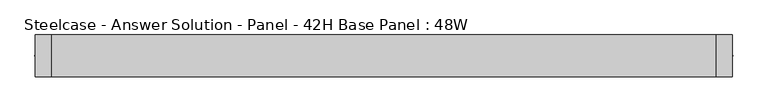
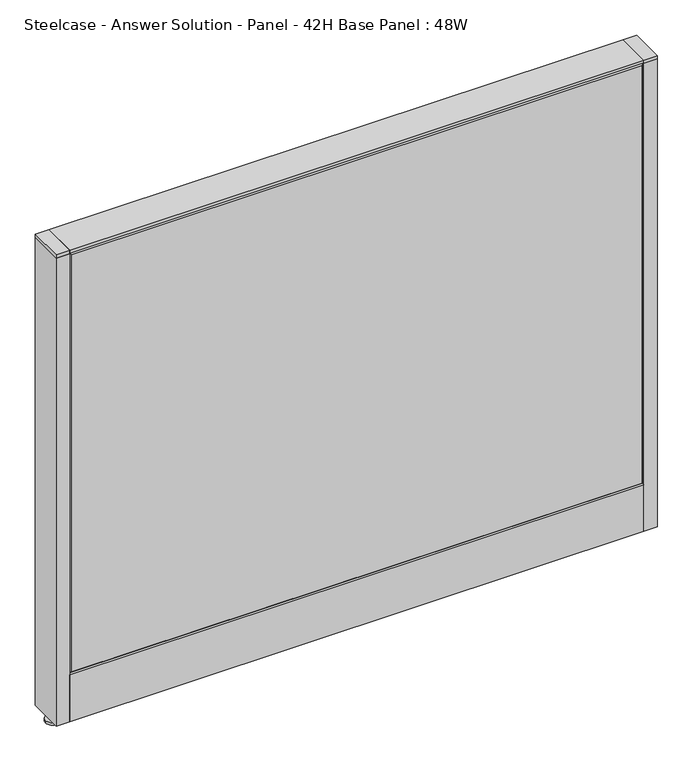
"""IFC4 building model written with IfcOpenShell, lengths in millimetres: furniture geometry, Steelcase - Answer Solution - Panel - 42H Base Panel : 48W."""

from ifc_helpers import new_model, si_unit, point, frame, frame_2d, origin, place, context, project, spatial, polyline, circle_curve, trimmed, segment, composite_curve, outline, extrude, faceted_brep, source, transform, mapped, element, save


def steelcase_answer_solution_panel_42h_base_panel_48w_7ca1e1f1(model_context):
    return source(origin(), model_context, "Body", "SolidModel", [
        extrude(outline(composite_curve([segment(trimmed(circle_curve(frame_2d((623.824, 0.0039657)), 5.08), [point((628.904, 0.0039657))], [point((618.744, 0.0039657))], False, "CARTESIAN"), True, "CONTINUOUS"), segment(trimmed(circle_curve(frame_2d((623.824, 0.0039657)), 5.08), [point((618.744, 0.0039657))], [point((628.904, 0.0039657))], False, "CARTESIAN"), True, "CONTINUOUS")], self_intersect=False)), frame((0.0, 0.0, 5.0799671), z_axis=(0.0, 0.0, 1.0), x_axis=(1.0, 0.0, 0.0)), (0.0, 0.0, 1.0), 10.414),
        extrude(outline(composite_curve([segment(trimmed(circle_curve(frame_2d((623.824, 0.0039657)), 15.24), [point((639.064, 0.0039657))], [point((608.584, 0.0039657))], False, "CARTESIAN"), True, "CONTINUOUS"), segment(trimmed(circle_curve(frame_2d((623.824, 0.0039657)), 15.24), [point((608.584, 0.0039657))], [point((639.064, 0.0039657))], False, "CARTESIAN"), True, "CONTINUOUS")], self_intersect=False)), frame((0.0, 0.0, -3.29e-05), z_axis=(0.0, 0.0, 1.0), x_axis=(1.0, 0.0, 0.0)), (0.0, 0.0, 1.0), 5.08),
        extrude(outline(polyline([(638.175, 38.1039851), (638.175, -38.0960149), (609.6, -38.0960149), (609.6, 38.1039851), (638.175, 38.1039851)])), frame((0.0, 0.0, 1065.8348), z_axis=(0.0, 0.0, 1.0), x_axis=(1.0, 0.0, 0.0)), (0.0, 0.0, 1.0), 7.3151671),
        extrude(outline(polyline([(638.175, 38.1039851), (638.175, -38.0960149), (609.6, -38.0960149), (609.6, 38.1039851), (638.175, 38.1039851)])), frame((0.0, 0.0, 15.4939671), z_axis=(0.0, 0.0, 1.0), x_axis=(1.0, 0.0, 0.0)), (0.0, 0.0, 1.0), 1050.3408329),
        extrude(outline(composite_curve([segment(trimmed(circle_curve(frame_2d((-623.824, 0.0039657)), 5.08), [point((-628.904, 0.0039657))], [point((-618.744, 0.0039657))], False, "CARTESIAN"), True, "CONTINUOUS"), segment(trimmed(circle_curve(frame_2d((-623.824, 0.0039657)), 5.08), [point((-618.744, 0.0039657))], [point((-628.904, 0.0039657))], False, "CARTESIAN"), True, "CONTINUOUS")], self_intersect=False)), frame((0.0, 0.0, 5.0799671), z_axis=(0.0, 0.0, 1.0), x_axis=(1.0, 0.0, 0.0)), (0.0, 0.0, 1.0), 10.414),
        extrude(outline(composite_curve([segment(trimmed(circle_curve(frame_2d((-623.824, 0.0039657)), 15.24), [point((-639.064, 0.0039657))], [point((-608.584, 0.0039657))], False, "CARTESIAN"), True, "CONTINUOUS"), segment(trimmed(circle_curve(frame_2d((-623.824, 0.0039657)), 15.24), [point((-608.584, 0.0039657))], [point((-639.064, 0.0039657))], False, "CARTESIAN"), True, "CONTINUOUS")], self_intersect=False)), frame((0.0, 0.0, -3.29e-05), z_axis=(0.0, 0.0, 1.0), x_axis=(1.0, 0.0, 0.0)), (0.0, 0.0, 1.0), 5.08),
        extrude(outline(polyline([(-638.175, 38.1039851), (-609.6, 38.1039851), (-609.6, -38.0960149), (-638.175, -38.0960149), (-638.175, 38.1039851)])), frame((0.0, 0.0, 1065.8348), z_axis=(0.0, 0.0, 1.0), x_axis=(1.0, 0.0, 0.0)), (0.0, 0.0, 1.0), 7.3151671),
        extrude(outline(polyline([(-638.175, 38.1039851), (-609.6, 38.1039851), (-609.6, -38.0960149), (-638.175, -38.0960149), (-638.175, 38.1039851)])), frame((0.0, 0.0, 15.4939671), z_axis=(0.0, 0.0, 1.0), x_axis=(1.0, 0.0, 0.0)), (0.0, 0.0, 1.0), 1050.3408329),
        faceted_brep([(-604.774, 38.1635011, 1061.974), (604.774, 38.1635011, 1061.974), (604.774, 38.1635011, 125.476), (-604.774, 38.1635011, 125.476), (-609.6, 33.3375011, 1066.8), (-609.6, 33.3375011, 120.65), (609.6, 33.3375011, 120.65), (609.6, 33.3375011, 1066.8)], [[[0, 1, 2, 3]], [[4, 5, 6, 7]], [[4, 7, 1, 0]], [[7, 6, 2, 1]], [[6, 5, 3, 2]], [[5, 4, 0, 3]]]),
        faceted_brep([(604.774, -38.1635011, 1061.974), (-604.774, -38.1635011, 1061.974), (-604.774, -38.1635011, 125.476), (604.774, -38.1635011, 125.476), (609.6, -33.3375011, 1066.8), (609.6, -33.3375011, 120.65), (-609.6, -33.3375011, 120.65), (-609.6, -33.3375011, 1066.8)], [[[0, 1, 2, 3]], [[4, 5, 6, 7]], [[4, 7, 1, 0]], [[7, 6, 2, 1]], [[6, 5, 3, 2]], [[5, 4, 0, 3]]]),
        extrude(outline(polyline([(609.6, 38.1000194), (609.6, -38.1000194), (-609.6, -38.1000194), (-609.6, 38.1000194), (609.6, 38.1000194)])), frame((0.0, 0.0, 1066.8), z_axis=(0.0, 0.0, 1.0), x_axis=(1.0, 0.0, 0.0)), (0.0, 0.0, 1.0), 6.35),
        extrude(outline(polyline([(25.4000011, 119.8575157), (25.4000011, 120.65), (38.1000194, 120.65), (38.1000194, 15.494), (37.3075215, 15.494), (37.3075215, 119.8575157), (25.4000011, 119.8575157)])), frame((-609.6, 0.0, 0.0), z_axis=(1.0, 0.0, 0.0), x_axis=(0.0, 1.0, 0.0)), (0.0, 0.0, 1.0), 1219.2),
        extrude(outline(polyline([(-25.4000011, 119.8575157), (-37.3075215, 119.8575157), (-37.3075215, 15.494), (-38.1000194, 15.494), (-38.1000194, 120.65), (-25.4000011, 120.65), (-25.4000011, 119.8575157)])), frame((-609.6, 0.0, 0.0), z_axis=(1.0, 0.0, 0.0), x_axis=(0.0, 1.0, 0.0)), (0.0, 0.0, 1.0), 1219.2),
    ])


if __name__ == "__main__":
    model = new_model("IFC4")
    model_context = context("Model", 3, world=origin())
    ifc_project = project(units=[si_unit("LENGTHUNIT", "METRE", prefix="MILLI")], contexts=[model_context])
    site = spatial("IfcSite", under=ifc_project)
    building = spatial("IfcBuilding", under=site)
    placement = place(None, origin())
    steelcase_answer_solution_panel_42h_base_panel_48w_shape = steelcase_answer_solution_panel_42h_base_panel_48w_7ca1e1f1(model_context)
    element("IfcFurniture", 1, ObjectType="Steelcase - Answer Solution - Panel - 42H Base Panel : 48W", at=placement, inside=building, context=model_context, shape_type="MappedRepresentation", body=[
        mapped(steelcase_answer_solution_panel_42h_base_panel_48w_shape, transform((0.0, 0.0, 0.0), x_axis=(1.0, 0.0, 0.0), y_axis=(0.0, 1.0, 0.0), z_axis=(0.0, 0.0, 1.0))),
    ])
    save(model, "model.ifc")
